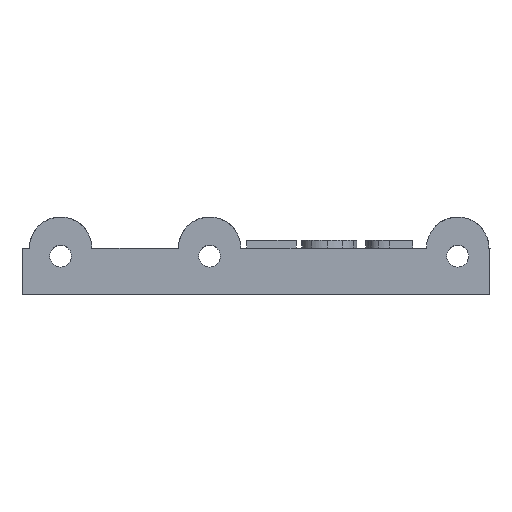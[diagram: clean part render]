
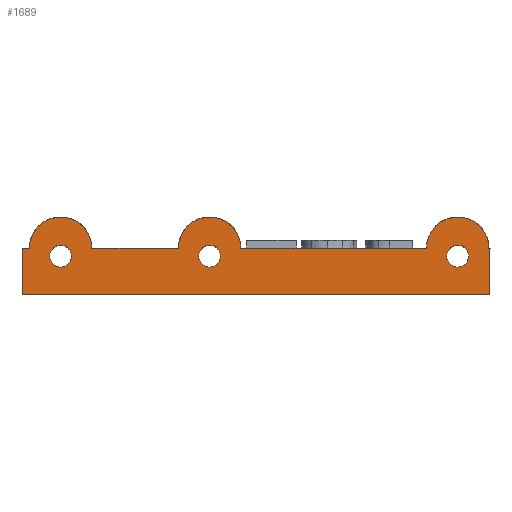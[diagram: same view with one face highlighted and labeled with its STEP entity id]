
A CAD part, front view. The second image highlights one B-rep face of the part: STEP entity #1689.
In plain terms, the highlighted planar face has unit normal (0, -1, 0) as drawn and (0, 0, -1) by its records, which use the part's own axes.
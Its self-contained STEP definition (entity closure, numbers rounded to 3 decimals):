
#37=CIRCLE('',#1732,1.4);
#38=CIRCLE('',#1735,1.4);
#39=CIRCLE('',#1738,1.4);
#40=CIRCLE('',#1742,4.);
#41=CIRCLE('',#1745,4.);
#42=CIRCLE('',#1748,4.);
#61=FACE_BOUND('',#387,.T.);
#62=FACE_BOUND('',#388,.T.);
#63=FACE_BOUND('',#389,.T.);
#285=FACE_OUTER_BOUND('',#386,.T.);
#386=EDGE_LOOP('',(#1553,#1554,#1555,#1556,#1557,#1558,#1559,#1560,#1561,
#1562));
#387=EDGE_LOOP('',(#1563));
#388=EDGE_LOOP('',(#1564));
#389=EDGE_LOOP('',(#1565));
#442=LINE('',#2658,#579);
#502=LINE('',#3251,#639);
#507=LINE('',#3260,#644);
#510=LINE('',#3268,#647);
#518=LINE('',#3286,#655);
#521=LINE('',#3292,#658);
#526=LINE('',#3310,#663);
#579=VECTOR('',#1849,10.);
#639=VECTOR('',#1977,10.);
#644=VECTOR('',#1984,10.);
#647=VECTOR('',#1993,10.);
#655=VECTOR('',#2009,10.);
#658=VECTOR('',#2014,10.);
#663=VECTOR('',#2039,10.);
#731=VERTEX_POINT('',#2655);
#732=VERTEX_POINT('',#2657);
#796=VERTEX_POINT('',#3190);
#798=VERTEX_POINT('',#3196);
#800=VERTEX_POINT('',#3202);
#804=VERTEX_POINT('',#3231);
#806=VERTEX_POINT('',#3237);
#809=VERTEX_POINT('',#3244);
#810=VERTEX_POINT('',#3246);
#811=VERTEX_POINT('',#3250);
#814=VERTEX_POINT('',#3258);
#822=VERTEX_POINT('',#3284);
#824=VERTEX_POINT('',#3289);
#928=EDGE_CURVE('',#732,#731,#442,.T.);
#1023=EDGE_CURVE('',#796,#796,#37,.T.);
#1026=EDGE_CURVE('',#798,#798,#38,.T.);
#1029=EDGE_CURVE('',#800,#800,#39,.T.);
#1034=EDGE_CURVE('',#804,#732,#40,.T.);
#1038=EDGE_CURVE('',#731,#806,#41,.T.);
#1041=EDGE_CURVE('',#810,#809,#42,.T.);
#1043=EDGE_CURVE('',#811,#804,#502,.T.);
#1048=EDGE_CURVE('',#809,#814,#507,.T.);
#1052=EDGE_CURVE('',#806,#810,#510,.T.);
#1061=EDGE_CURVE('',#822,#814,#518,.T.);
#1064=EDGE_CURVE('',#824,#811,#521,.T.);
#1073=EDGE_CURVE('',#824,#822,#526,.T.);
#1553=ORIENTED_EDGE('',*,*,#1073,.F.);
#1554=ORIENTED_EDGE('',*,*,#1064,.T.);
#1555=ORIENTED_EDGE('',*,*,#1043,.T.);
#1556=ORIENTED_EDGE('',*,*,#1034,.T.);
#1557=ORIENTED_EDGE('',*,*,#928,.T.);
#1558=ORIENTED_EDGE('',*,*,#1038,.T.);
#1559=ORIENTED_EDGE('',*,*,#1052,.T.);
#1560=ORIENTED_EDGE('',*,*,#1041,.T.);
#1561=ORIENTED_EDGE('',*,*,#1048,.T.);
#1562=ORIENTED_EDGE('',*,*,#1061,.F.);
#1563=ORIENTED_EDGE('',*,*,#1023,.T.);
#1564=ORIENTED_EDGE('',*,*,#1026,.T.);
#1565=ORIENTED_EDGE('',*,*,#1029,.T.);
#1600=PLANE('',#1769);
#1689=ADVANCED_FACE('',(#285,#61,#62,#63),#1600,.F.);
#1732=AXIS2_PLACEMENT_3D('',#3191,#1934,#1935);
#1735=AXIS2_PLACEMENT_3D('',#3197,#1941,#1942);
#1738=AXIS2_PLACEMENT_3D('',#3203,#1948,#1949);
#1742=AXIS2_PLACEMENT_3D('',#3232,#1957,#1958);
#1745=AXIS2_PLACEMENT_3D('',#3239,#1965,#1966);
#1748=AXIS2_PLACEMENT_3D('',#3247,#1972,#1973);
#1769=AXIS2_PLACEMENT_3D('',#3311,#2040,#2041);
#1849=DIRECTION('',(-1.,0.,0.));
#1934=DIRECTION('center_axis',(0.,0.,
1.));
#1935=DIRECTION('ref_axis',(-1.,0.,0.));
#1941=DIRECTION('center_axis',(0.,0.,
1.));
#1942=DIRECTION('ref_axis',(-1.,0.,0.));
#1948=DIRECTION('center_axis',(0.,0.,
1.));
#1949=DIRECTION('ref_axis',(-1.,0.,0.));
#1957=DIRECTION('center_axis',(0.,0.,
-1.));
#1958=DIRECTION('ref_axis',(-1.,0.,0.));
#1965=DIRECTION('center_axis',(0.,0.,
-1.));
#1966=DIRECTION('ref_axis',(-1.,0.,0.));
#1972=DIRECTION('center_axis',(0.,0.,
-1.));
#1973=DIRECTION('ref_axis',(-1.,0.,0.));
#1977=DIRECTION('',(-1.,0.,0.));
#1984=DIRECTION('',(-1.,0.,0.));
#1993=DIRECTION('',(-1.,0.,0.));
#2009=DIRECTION('',(0.,-1.,0.));
#2014=DIRECTION('',(0.,-1.,0.));
#2039=DIRECTION('',(-1.,0.,0.));
#2040=DIRECTION('center_axis',(0.,0.,
1.));
#2041=DIRECTION('ref_axis',(-1.,0.,0.));
#2655=CARTESIAN_POINT('',(-174.85,273.982,-329.848));
#2657=CARTESIAN_POINT('',(-151.041,273.982,-329.848));
#2658=CARTESIAN_POINT('',(-142.902,273.982,-329.848));
#3190=CARTESIAN_POINT('',(-177.45,275.008,-329.848));
#3191=CARTESIAN_POINT('Origin',(-178.85,275.008,-329.848));
#3196=CARTESIAN_POINT('',(-196.552,275.008,-329.848));
#3197=CARTESIAN_POINT('Origin',(-197.952,275.008,-329.848));
#3202=CARTESIAN_POINT('',(-145.641,275.008,-329.848));
#3203=CARTESIAN_POINT('Origin',(-147.041,275.008,-329.848));
#3231=CARTESIAN_POINT('',(-143.041,273.982,-329.848));
#3232=CARTESIAN_POINT('Origin',(-147.041,273.982,-329.848));
#3237=CARTESIAN_POINT('',(-182.85,273.982,-329.848));
#3239=CARTESIAN_POINT('Origin',(-178.85,273.982,-329.848));
#3244=CARTESIAN_POINT('',(-201.952,273.982,-329.848));
#3246=CARTESIAN_POINT('',(-193.952,273.982,-329.848));
#3247=CARTESIAN_POINT('Origin',(-197.952,273.982,-329.848));
#3250=CARTESIAN_POINT('',(-142.902,273.982,-329.848));
#3251=CARTESIAN_POINT('',(-142.902,273.982,-329.848));
#3258=CARTESIAN_POINT('',(-202.902,273.982,-329.848));
#3260=CARTESIAN_POINT('',(-142.902,273.982,-329.848));
#3268=CARTESIAN_POINT('',(-142.902,273.982,-329.848));
#3284=CARTESIAN_POINT('',(-202.902,279.982,-329.848));
#3286=CARTESIAN_POINT('',(-202.902,289.982,-329.848));
#3289=CARTESIAN_POINT('',(-142.902,279.982,-329.848));
#3292=CARTESIAN_POINT('',(-142.902,289.982,-329.848));
#3310=CARTESIAN_POINT('',(-152.902,279.982,-329.848));
#3311=CARTESIAN_POINT('Origin',(-142.902,289.982,-329.848));
